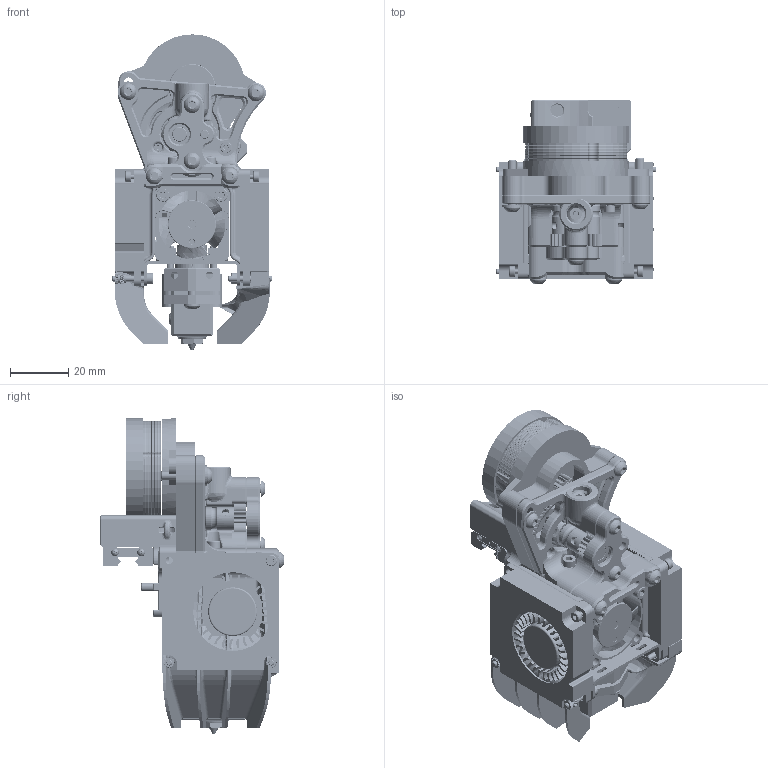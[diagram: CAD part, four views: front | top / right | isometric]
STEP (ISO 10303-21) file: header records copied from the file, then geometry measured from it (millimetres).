
FILE_DESCRIPTION(/* description */ (''),/* implementation_level */ '2;1');
FILE_NAME(/* name */ 'deconstruder_v25.step',/* time_stamp */ '2023-12-06T10:29:05-06:00',/* author */ (''),/* organization */ (''),/* preprocessor_version */ 'ST-DEVELOPER v20',/* originating_system */ 'Autodesk Translation Framework v12.14.0.127',/* authorisation */ '');
FILE_SCHEMA (('AUTOMOTIVE_DESIGN { 1 0 10303 214 3 1 1 }'));
Products named in the file (100): deconstruder for upload; Deconstruder; bolts and hardware; 92125A052_NO THREADS_18-8 Stainless Steel Hex Drive Flat Head Screw; 91290A104_NO THREADS_Alloy Steel Socket Head Screw (1) (1); 91290A104_NO THREADS_Alloy Steel Socket Head Screw (1); 92095A183_NO THREADS; 98689A110_General Purpose 18-8 Stainless Steel Washer; 91290A045_NO THREADS_Alloy Steel Socket Head Screw; 92095A183_NO THREADS (1); 91290A019_NO THREADS_Alloy Steel Socket Head Screw; 91290A019_NO THREADS_Alloy Steel Socket Head Screw (2) (1); 92095A181_NO THREADS (1); 92095A184_NO THREADS; 91290A019_NO THREADS_Alloy Steel Socket Head Screw (1); 91290A019_NO THREADS_Alloy Steel Socket Head Screw (2); 92095A181_NO THREADS; 92095A184_NO THREADS (1); 93475A210_18-8 Stainless Steel Washer; 91290A104_NO THREADS_Alloy Steel Socket Head Screw (2); 91290A104_NO THREADS_Alloy Steel Socket Head Screw (3); M2 heatset insert 3mm (2); M2 heatset insert (1); M2 heatset insert 3mm (1); M2 heatset insert (1) (1); M2 heatset insert (2) (1); M3 heatset (1); M3 heatset (2); 91292A831_18-8 Stainless Steel Socket Head Screw; 91292A831_18-8 Stainless Steel Socket Head Screw (1); M3x35 BHCS-1; 91290A104_NO THREADS_Alloy Steel Socket Head Screw; Core; MGN7-H-1; X_Carriage (1); BMG_Shaft_Gear_Assembly; Direct_Drivegear (1).step-1-1; Shaft-assembly (1).step-1-1; MR825 Ballbearing 5x8x2 (1).step-1-1; BMG_Drive_Gear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
Assembly tree (108 placements, depth 6):
  deconstruder for upload
    Deconstruder
      bolts and hardware
        M3x35 BHCS-1  x2
        91290A104_NO THREADS_Alloy Steel Socket Head Screw  x2
        92125A052_NO THREADS_18-8 Stainless Steel Hex Drive Flat Head Screw
        91290A104_NO THREADS_Alloy Steel Socket Head Screw (1) (1)
        91290A104_NO THREADS_Alloy Steel Socket Head Screw (1)
        92095A183_NO THREADS
        98689A110_General Purpose 18-8 Stainless Steel Washer
        91290A045_NO THREADS_Alloy Steel Socket Head Screw
        92095A183_NO THREADS (1)
        91290A019_NO THREADS_Alloy Steel Socket Head Screw
        91290A019_NO THREADS_Alloy Steel Socket Head Screw (2) (1)
        92095A181_NO THREADS (1)
        92095A184_NO THREADS
        91290A019_NO THREADS_Alloy Steel Socket Head Screw (1)
        91290A019_NO THREADS_Alloy Steel Socket Head Screw (2)
        92095A181_NO THREADS
        92095A184_NO THREADS (1)
        93475A210_18-8 Stainless Steel Washer
        91290A104_NO THREADS_Alloy Steel Socket Head Screw (2)
        91290A104_NO THREADS_Alloy Steel Socket Head Screw (3)
        M2 heatset insert 3mm (2)
        M2 heatset insert (1)
        M2 heatset insert 3mm (1)
        M2 heatset insert (1) (1)
        M2 heatset insert (2) (1)
        M3 heatset (1)
        M3 heatset (2)
        91292A831_18-8 Stainless Steel Socket Head Screw
        91292A831_18-8 Stainless Steel Socket Head Screw (1)
      Core
        MGN7-H-1
        X_Carriage (1)
        BMG_Shaft_Gear_Assembly
          MR825 Ballbearing 5x8x2 (1).step-1-1  x2
          Direct_Drivegear (1).step-1-1
          Shaft-assembly (1).step-1-1
        BMG_Drive_Gear
          Direct_Drivegear_without_setscrew (1).step-1-1
            stift 3 x 20 (1).step-1-1
            K3x5x7 Needlebearing (1).step-1-1  x2
            Direct_Drivegear_without_setscrew (1)-7.step-1-1
        extruder frame
        printed nose-plate
        stepper plate(Printed)
        Nema14  (1)
          Component3 (1) (1)
          Component4 (1) (1)
          Component15 (1) (1)
          Component12 (1) (1)
          Component9 (1) (1)
          Component13 (1) (1)
          Component10 (1) (1)
          Component14 (1) (1)
          Component11 (1) (1)
          Component16 (1) (1)
          Component5 (1) (1)
          T10 SpurGear (1) (1)
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Bounding box: 54.97 x 62.9 x 108.12 mm (x, y, z)
Volume: 107145.9 mm3; surface area: 143824.1 mm2
Topology: 120 solids, 124 shells, 8004 faces, 21074 edges, 13368 vertices
Faces by surface type: cylinder 2783, plane 2372, bspline 1757, cone 689, torus 348, sphere 55
Full cylindrical faces by diameter (mm): 0.231 x4, 0.4 x1, 0.8 x4, 1 x10, 1.138 x38, 1.2 x4, 1.25 x2, 1.48 x2, 1.5 x2, 1.538 x66, 1.6 x2, 1.8 x3, 1.85 x1, 2 x24, 2.05 x4, 2.2 x7, 2.25 x1, 2.3 x3, 2.35 x49, 2.4 x12, 2.5 x40, 2.529 x13, 2.6 x7, 2.659 x4, 2.7 x18, 2.75 x2, 2.9 x4, 2.945 x8, 3 x67, 3.086 x12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
Entity records: 369177 total; most frequent: CARTESIAN_POINT 179508, ORIENTED_EDGE 41222, DIRECTION 37326, EDGE_CURVE 20611, AXIS2_PLACEMENT_3D 14526, VERTEX_POINT 13093, EDGE_LOOP 8364, LINE 8274
